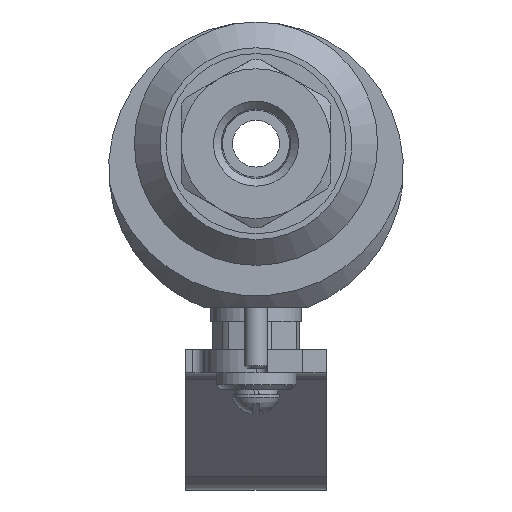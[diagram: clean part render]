
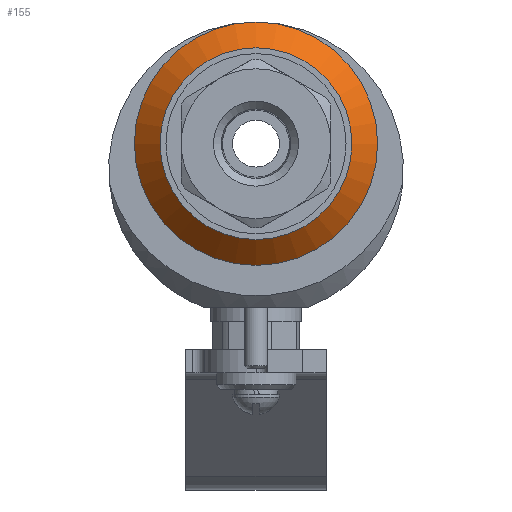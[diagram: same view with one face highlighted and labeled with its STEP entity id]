
A CAD part, left-side view. The second image highlights one B-rep face of the part: STEP entity #155.
In plain terms, the highlighted conical face has half-angle 45 degrees and reference radius 23.25 mm.
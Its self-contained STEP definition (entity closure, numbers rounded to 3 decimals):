
#155=ADVANCED_FACE('',(#742),#744,.T.);
#742=FACE_OUTER_BOUND('',#743,.T.);
#743=EDGE_LOOP('',(#1815,#1816,#1817,#1818,#1819));
#744=CONICAL_SURFACE('',#745,23.25,0.785);
#745=AXIS2_PLACEMENT_3D('',#746,#747,#748);
#746=CARTESIAN_POINT('',(-30.25,0.,0.));
#747=DIRECTION('',(1.,0.,0.));
#748=DIRECTION('',(0.,1.,0.));
#1815=ORIENTED_EDGE('',*,*,#2534,.T.);
#1816=ORIENTED_EDGE('',*,*,#2535,.T.);
#1817=ORIENTED_EDGE('',*,*,#2542,.F.);
#1818=ORIENTED_EDGE('',*,*,#2543,.F.);
#1819=ORIENTED_EDGE('',*,*,#2542,.T.);
#2534=EDGE_CURVE('',#3021,#3022,#3023,.T.);
#2535=EDGE_CURVE('',#3022,#3021,#3024,.T.);
#2542=EDGE_CURVE('',#3034,#3021,#3035,.T.);
#2543=EDGE_CURVE('',#3034,#3034,#3036,.T.);
#3021=VERTEX_POINT('',#4736);
#3022=VERTEX_POINT('',#4737);
#3023=CIRCLE('',#4738,26.);
#3024=CIRCLE('',#4742,26.);
#3034=VERTEX_POINT('',#4770);
#3035=LINE('',#4771,#4772);
#3036=CIRCLE('',#4774,20.5);
#4736=CARTESIAN_POINT('',(-27.5,-26.,0.));
#4737=CARTESIAN_POINT('',(-27.5,0.,-26.));
#4738=AXIS2_PLACEMENT_3D('',#4739,#4740,#4741);
#4739=CARTESIAN_POINT('',(-27.5,0.,0.));
#4740=DIRECTION('',(-1.,0.,0.));
#4741=DIRECTION('',(0.,-1.,0.));
#4742=AXIS2_PLACEMENT_3D('',#4743,#4744,#4745);
#4743=CARTESIAN_POINT('',(-27.5,0.,0.));
#4744=DIRECTION('',(-1.,0.,0.));
#4745=DIRECTION('',(0.,0.,-1.));
#4770=CARTESIAN_POINT('',(-33.,-20.5,0.));
#4771=CARTESIAN_POINT('',(-33.,-20.5,0.));
#4772=VECTOR('',#4773,1.);
#4773=DIRECTION('',(0.707,-0.707,0.));
#4774=AXIS2_PLACEMENT_3D('',#4775,#4776,#4777);
#4775=CARTESIAN_POINT('',(-33.,0.,0.));
#4776=DIRECTION('',(-1.,0.,0.));
#4777=DIRECTION('',(0.,-1.,0.));
